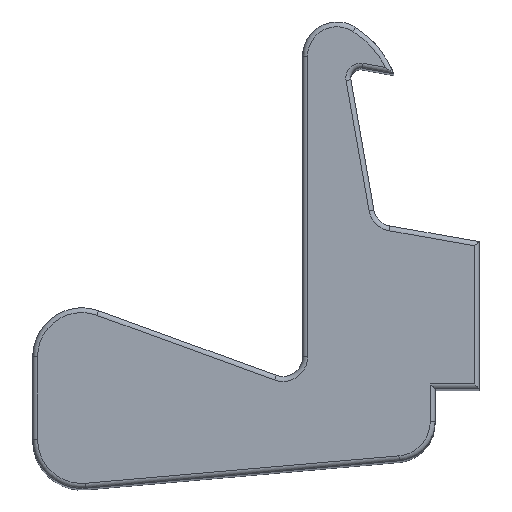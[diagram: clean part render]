
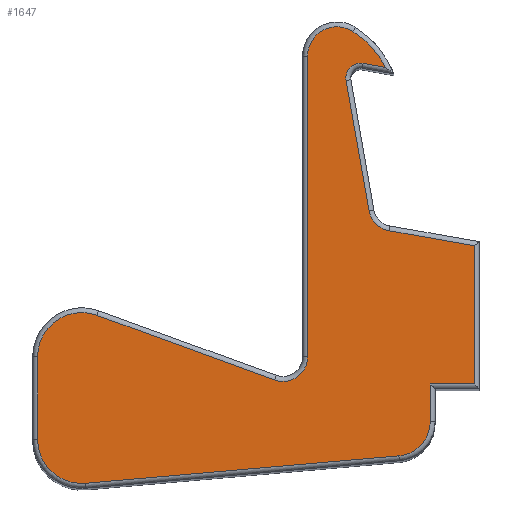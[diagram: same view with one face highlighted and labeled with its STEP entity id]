
A CAD part, top view. The second image highlights one B-rep face of the part: STEP entity #1647.
In plain terms, the highlighted planar face has unit normal (0, 0, 1).
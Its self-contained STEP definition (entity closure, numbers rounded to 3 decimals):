
#9 = LINE ( 'NONE', #1612, #1670 ) ;
#23 = CARTESIAN_POINT ( 'NONE',  ( 40.5, 11.087, 53. ) ) ;
#41 = CARTESIAN_POINT ( 'NONE',  ( 5., 5.457, 53. ) ) ;
#44 = CARTESIAN_POINT ( 'NONE',  ( 35.95, 43.341, 53. ) ) ;
#65 = CARTESIAN_POINT ( 'NONE',  ( 6.539, 18.088, 53. ) ) ;
#72 = LINE ( 'NONE', #589, #370 ) ;
#78 = VECTOR ( 'NONE', #1453, 1000. ) ;
#96 = VERTEX_POINT ( 'NONE', #990 ) ;
#98 = CARTESIAN_POINT ( 'NONE',  ( 45.5, 11.087, 53. ) ) ;
#114 = DIRECTION ( 'NONE',  ( -0.985, 0.174, 0. ) ) ;
#122 = DIRECTION ( 'NONE',  ( 1., 0., 0. ) ) ;
#145 = ORIENTED_EDGE ( 'NONE', *, *, #1691, .T. ) ;
#148 = LINE ( 'NONE', #801, #773 ) ;
#165 = CARTESIAN_POINT ( 'NONE',  ( 45., 25.167, 53. ) ) ;
#173 = VERTEX_POINT ( 'NONE', #1573 ) ;
#189 = CARTESIAN_POINT ( 'NONE',  ( 31.924, 42.007, 53. ) ) ;
#218 = VERTEX_POINT ( 'NONE', #768 ) ;
#219 = AXIS2_PLACEMENT_3D ( 'NONE', #1404, #611, #1253 ) ;
#282 = ORIENTED_EDGE ( 'NONE', *, *, #638, .T. ) ;
#284 = DIRECTION ( 'NONE',  ( 0., 0., -1. ) ) ;
#328 = CARTESIAN_POINT ( 'NONE',  ( 5., 13.859, 53. ) ) ;
#329 = VERTEX_POINT ( 'NONE', #1350 ) ;
#370 = VECTOR ( 'NONE', #463, 1000. ) ;
#379 = EDGE_CURVE ( 'NONE', #889, #386, #148, .T. ) ;
#386 = VERTEX_POINT ( 'NONE', #408 ) ;
#389 = CIRCLE ( 'NONE', #1740, 3. ) ;
#408 = CARTESIAN_POINT ( 'NONE',  ( 36.292, 26.703, 53. ) ) ;
#438 = CARTESIAN_POINT ( 'NONE',  ( 37.305, 3.766, 53. ) ) ;
#448 = DIRECTION ( 'NONE',  ( 0.996, 0.087, 0. ) ) ;
#452 = CARTESIAN_POINT ( 'NONE',  ( 31.924, 42.007, 53. ) ) ;
#453 = CIRCLE ( 'NONE', #1441, 3.5 ) ;
#456 = LINE ( 'NONE', #991, #78 ) ;
#463 = DIRECTION ( 'NONE',  ( 0., 1., 0. ) ) ;
#472 = CARTESIAN_POINT ( 'NONE',  ( 27.5, 39., 53. ) ) ;
#484 = ORIENTED_EDGE ( 'NONE', *, *, #1051, .T. ) ;
#492 = EDGE_CURVE ( 'NONE', #173, #984, #749, .T. ) ;
#521 = DIRECTION ( 'NONE',  ( 0., 0., 1. ) ) ;
#525 = VERTEX_POINT ( 'NONE', #554 ) ;
#554 = CARTESIAN_POINT ( 'NONE',  ( 33.661, 43.744, 53. ) ) ;
#572 = CARTESIAN_POINT ( 'NONE',  ( 36.726, 29.165, 53. ) ) ;
#577 = ORIENTED_EDGE ( 'NONE', *, *, #1009, .T. ) ;
#589 = CARTESIAN_POINT ( 'NONE',  ( 45., 25.587, 53. ) ) ;
#604 = ORIENTED_EDGE ( 'NONE', *, *, #1195, .T. ) ;
#605 = DIRECTION ( 'NONE',  ( 1., 0., 0. ) ) ;
#606 = VERTEX_POINT ( 'NONE', #452 ) ;
#611 = DIRECTION ( 'NONE',  ( 0., 0., -1. ) ) ;
#624 = AXIS2_PLACEMENT_3D ( 'NONE', #472, #1007, #1263 ) ;
#638 = EDGE_CURVE ( 'NONE', #1714, #1066, #1701, .T. ) ;
#644 = VERTEX_POINT ( 'NONE', #1567 ) ;
#655 = VERTEX_POINT ( 'NONE', #1048 ) ;
#660 = ORIENTED_EDGE ( 'NONE', *, *, #379, .T. ) ;
#666 = DIRECTION ( 'NONE',  ( 0., 0., -1. ) ) ;
#676 = AXIS2_PLACEMENT_3D ( 'NONE', #41, #948, #825 ) ;
#680 = ORIENTED_EDGE ( 'NONE', *, *, #1627, .T. ) ;
#683 = EDGE_CURVE ( 'NONE', #1066, #218, #777, .T. ) ;
#717 = LINE ( 'NONE', #746, #1161 ) ;
#726 = ORIENTED_EDGE ( 'NONE', *, *, #1559, .T. ) ;
#743 = CARTESIAN_POINT ( 'NONE',  ( 25.5, 13.847, 53. ) ) ;
#746 = CARTESIAN_POINT ( 'NONE',  ( 36.884, 43.176, 53. ) ) ;
#749 = CIRCLE ( 'NONE', #1002, 2.5 ) ;
#761 = ORIENTED_EDGE ( 'NONE', *, *, #1016, .T. ) ;
#768 = CARTESIAN_POINT ( 'NONE',  ( 45., 11.087, 53. ) ) ;
#773 = VECTOR ( 'NONE', #114, 1000. ) ;
#777 = LINE ( 'NONE', #98, #1643 ) ;
#781 = AXIS2_PLACEMENT_3D ( 'NONE', #743, #1526, #1286 ) ;
#801 = CARTESIAN_POINT ( 'NONE',  ( 36.292, 26.703, 53. ) ) ;
#804 = ORIENTED_EDGE ( 'NONE', *, *, #683, .T. ) ;
#811 = CARTESIAN_POINT ( 'NONE',  ( 0.5, 5.457, 53. ) ) ;
#825 = DIRECTION ( 'NONE',  ( 1., 0., 0. ) ) ;
#835 = CARTESIAN_POINT ( 'NONE',  ( 25.5, 13.847, 53. ) ) ;
#872 = CARTESIAN_POINT ( 'NONE',  ( 24.645, 11.498, 53. ) ) ;
#878 = FACE_OUTER_BOUND ( 'NONE', #1492, .T. ) ;
#889 = VERTEX_POINT ( 'NONE', #165 ) ;
#944 = VERTEX_POINT ( 'NONE', #44 ) ;
#948 = DIRECTION ( 'NONE',  ( 0., 0., 1. ) ) ;
#975 = ORIENTED_EDGE ( 'NONE', *, *, #1194, .T. ) ;
#983 = DIRECTION ( 'NONE',  ( -0.174, 0.985, 0. ) ) ;
#984 = VERTEX_POINT ( 'NONE', #872 ) ;
#990 = CARTESIAN_POINT ( 'NONE',  ( 34.264, 28.731, 53. ) ) ;
#991 = CARTESIAN_POINT ( 'NONE',  ( 28., 13.847, 53. ) ) ;
#1002 = AXIS2_PLACEMENT_3D ( 'NONE', #835, #666, #1363 ) ;
#1007 = DIRECTION ( 'NONE',  ( 0., 0., 1. ) ) ;
#1009 = EDGE_CURVE ( 'NONE', #944, #329, #1674, .T. ) ;
#1016 = EDGE_CURVE ( 'NONE', #218, #889, #72, .T. ) ;
#1020 = CIRCLE ( 'NONE', #1193, 2.5 ) ;
#1025 = ORIENTED_EDGE ( 'NONE', *, *, #1501, .T. ) ;
#1032 = VERTEX_POINT ( 'NONE', #1654 ) ;
#1035 = DIRECTION ( 'NONE',  ( 1., 0., 0. ) ) ;
#1043 = ORIENTED_EDGE ( 'NONE', *, *, #492, .T. ) ;
#1045 = ORIENTED_EDGE ( 'NONE', *, *, #1282, .T. ) ;
#1048 = CARTESIAN_POINT ( 'NONE',  ( 0.5, 13.859, 53. ) ) ;
#1051 = EDGE_CURVE ( 'NONE', #386, #96, #1020, .T. ) ;
#1056 = EDGE_CURVE ( 'NONE', #1513, #1032, #1700, .T. ) ;
#1066 = VERTEX_POINT ( 'NONE', #23 ) ;
#1092 = DIRECTION ( 'NONE',  ( 1., 0., 0. ) ) ;
#1126 = LINE ( 'NONE', #189, #1246 ) ;
#1128 = CIRCLE ( 'NONE', #219, 1.5 ) ;
#1161 = VECTOR ( 'NONE', #1672, 1000. ) ;
#1177 = VECTOR ( 'NONE', #1678, 1000. ) ;
#1193 = AXIS2_PLACEMENT_3D ( 'NONE', #572, #284, #1092 ) ;
#1194 = EDGE_CURVE ( 'NONE', #1032, #1433, #1530, .T. ) ;
#1195 = EDGE_CURVE ( 'NONE', #525, #944, #717, .T. ) ;
#1246 = VECTOR ( 'NONE', #983, 1000. ) ;
#1247 = ORIENTED_EDGE ( 'NONE', *, *, #1296, .T. ) ;
#1253 = DIRECTION ( 'NONE',  ( 1., 0., 0. ) ) ;
#1259 = DIRECTION ( 'NONE',  ( 1., 0., 0. ) ) ;
#1263 = DIRECTION ( 'NONE',  ( 1., 0., 0. ) ) ;
#1265 = CARTESIAN_POINT ( 'NONE',  ( 37., 7.252, 53. ) ) ;
#1277 = CARTESIAN_POINT ( 'NONE',  ( 28., 44.477, 53. ) ) ;
#1282 = EDGE_CURVE ( 'NONE', #96, #606, #1126, .T. ) ;
#1286 = DIRECTION ( 'NONE',  ( 1., 0., 0. ) ) ;
#1296 = EDGE_CURVE ( 'NONE', #644, #655, #1388, .T. ) ;
#1316 = CARTESIAN_POINT ( 'NONE',  ( 31., 44.477, 53. ) ) ;
#1350 = CARTESIAN_POINT ( 'NONE',  ( 32.615, 47.005, 53. ) ) ;
#1363 = DIRECTION ( 'NONE',  ( 1., 0., 0. ) ) ;
#1388 = CIRCLE ( 'NONE', #1751, 4.5 ) ;
#1396 = ORIENTED_EDGE ( 'NONE', *, *, #1738, .T. ) ;
#1404 = CARTESIAN_POINT ( 'NONE',  ( 33.401, 42.267, 53. ) ) ;
#1407 = CARTESIAN_POINT ( 'NONE',  ( 37.305, 3.766, 53. ) ) ;
#1421 = VECTOR ( 'NONE', #1427, 1000. ) ;
#1422 = PLANE ( 'NONE',  #781 ) ;
#1427 = DIRECTION ( 'NONE',  ( 0., 1., 0. ) ) ;
#1433 = VERTEX_POINT ( 'NONE', #438 ) ;
#1441 = AXIS2_PLACEMENT_3D ( 'NONE', #1265, #1562, #1259 ) ;
#1444 = VECTOR ( 'NONE', #448, 1000. ) ;
#1453 = DIRECTION ( 'NONE',  ( 0., -1., 0. ) ) ;
#1492 = EDGE_LOOP ( 'NONE', ( #1045, #1617, #604, #577, #1396, #145, #1043, #680, #1247, #1025, #1659, #975, #726, #282, #804, #761, #660, #484 ) ) ;
#1501 = EDGE_CURVE ( 'NONE', #655, #1513, #9, .T. ) ;
#1513 = VERTEX_POINT ( 'NONE', #811 ) ;
#1526 = DIRECTION ( 'NONE',  ( 0., 0., 1. ) ) ;
#1530 = LINE ( 'NONE', #1407, #1444 ) ;
#1543 = CARTESIAN_POINT ( 'NONE',  ( 40.5, 10.587, 53. ) ) ;
#1559 = EDGE_CURVE ( 'NONE', #1433, #1714, #453, .T. ) ;
#1562 = DIRECTION ( 'NONE',  ( 0., 0., 1. ) ) ;
#1563 = EDGE_CURVE ( 'NONE', #606, #525, #1128, .T. ) ;
#1567 = CARTESIAN_POINT ( 'NONE',  ( 6.539, 18.088, 53. ) ) ;
#1573 = CARTESIAN_POINT ( 'NONE',  ( 28., 13.847, 53. ) ) ;
#1574 = CARTESIAN_POINT ( 'NONE',  ( 40.5, 7.252, 53. ) ) ;
#1604 = VERTEX_POINT ( 'NONE', #1277 ) ;
#1612 = CARTESIAN_POINT ( 'NONE',  ( 0.5, 5.457, 53. ) ) ;
#1617 = ORIENTED_EDGE ( 'NONE', *, *, #1563, .T. ) ;
#1618 = DIRECTION ( 'NONE',  ( 0., -1., 0. ) ) ;
#1627 = EDGE_CURVE ( 'NONE', #984, #644, #1668, .T. ) ;
#1643 = VECTOR ( 'NONE', #122, 1000. ) ;
#1647 = ADVANCED_FACE ( 'NONE', ( #878 ), #1422, .T. ) ;
#1654 = CARTESIAN_POINT ( 'NONE',  ( 5.392, 0.974, 53. ) ) ;
#1659 = ORIENTED_EDGE ( 'NONE', *, *, #1056, .T. ) ;
#1668 = LINE ( 'NONE', #65, #1177 ) ;
#1670 = VECTOR ( 'NONE', #1618, 1000. ) ;
#1672 = DIRECTION ( 'NONE',  ( 0.985, -0.174, 0. ) ) ;
#1674 = CIRCLE ( 'NONE', #624, 9.5 ) ;
#1678 = DIRECTION ( 'NONE',  ( -0.94, 0.342, 0. ) ) ;
#1691 = EDGE_CURVE ( 'NONE', #1604, #173, #456, .T. ) ;
#1697 = DIRECTION ( 'NONE',  ( 0., 0., 1. ) ) ;
#1700 = CIRCLE ( 'NONE', #676, 4.5 ) ;
#1701 = LINE ( 'NONE', #1543, #1421 ) ;
#1714 = VERTEX_POINT ( 'NONE', #1574 ) ;
#1738 = EDGE_CURVE ( 'NONE', #329, #1604, #389, .T. ) ;
#1740 = AXIS2_PLACEMENT_3D ( 'NONE', #1316, #521, #1035 ) ;
#1751 = AXIS2_PLACEMENT_3D ( 'NONE', #328, #1697, #605 ) ;
